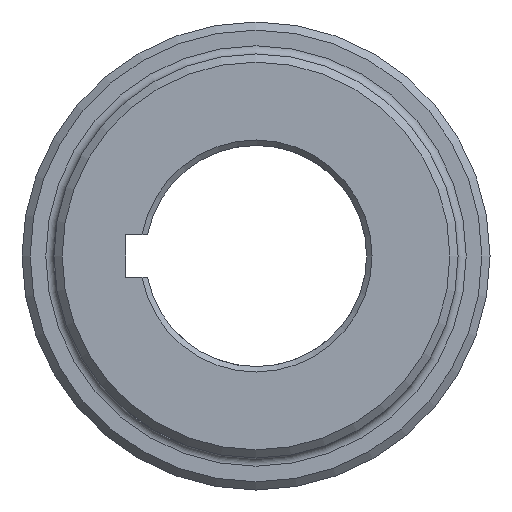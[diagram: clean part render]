
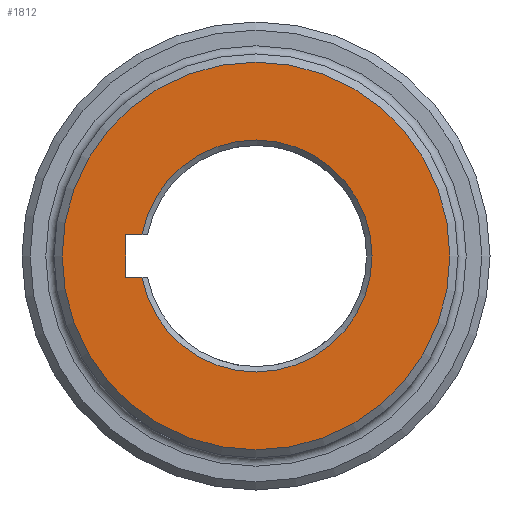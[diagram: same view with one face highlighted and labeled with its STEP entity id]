
A CAD part, left-side view. The second image highlights one B-rep face of the part: STEP entity #1812.
In plain terms, the highlighted planar face has unit normal (-1, 0, 0).
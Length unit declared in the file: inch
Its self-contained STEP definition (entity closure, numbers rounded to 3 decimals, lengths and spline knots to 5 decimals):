
#15 = CIRCLE ( 'NONE', #490, 1.425 ) ;
#22 = EDGE_LOOP ( 'NONE', ( #1197, #1134, #496, #546 ) ) ;
#129 = VERTEX_POINT ( 'NONE', #1809 ) ;
#134 = EDGE_CURVE ( 'NONE', #973, #973, #15, .T. ) ;
#155 = VECTOR ( 'NONE', #505, 39.37008 ) ;
#180 = CARTESIAN_POINT ( 'NONE',  ( 0., 0.95825, 0.156 ) ) ;
#273 = DIRECTION ( 'NONE',  ( 0., 1., 0. ) ) ;
#381 = LINE ( 'NONE', #1719, #1396 ) ;
#423 = LINE ( 'NONE', #1041, #155 ) ;
#459 = CARTESIAN_POINT ( 'NONE',  ( 0., 0., -0.156 ) ) ;
#490 = AXIS2_PLACEMENT_3D ( 'NONE', #1624, #875, #527 ) ;
#496 = ORIENTED_EDGE ( 'NONE', *, *, #1975, .F. ) ;
#505 = DIRECTION ( 'NONE',  ( 0., 0., -1. ) ) ;
#527 = DIRECTION ( 'NONE',  ( 0., 0., -1. ) ) ;
#546 = ORIENTED_EDGE ( 'NONE', *, *, #1967, .F. ) ;
#565 = ORIENTED_EDGE ( 'NONE', *, *, #134, .T. ) ;
#714 = DIRECTION ( 'NONE',  ( 1., 0., 0. ) ) ;
#759 = DIRECTION ( 'NONE',  ( 0., -1., 0. ) ) ;
#874 = CIRCLE ( 'NONE', #1980, 0.85275 ) ;
#875 = DIRECTION ( 'NONE',  ( -1., 0., 0. ) ) ;
#973 = VERTEX_POINT ( 'NONE', #1255 ) ;
#1041 = CARTESIAN_POINT ( 'NONE',  ( 0., 0.95825, -0.156 ) ) ;
#1082 = CARTESIAN_POINT ( 'NONE',  ( 0., 0.83836, 0.156 ) ) ;
#1084 = FACE_OUTER_BOUND ( 'NONE', #2321, .T. ) ;
#1118 = CARTESIAN_POINT ( 'NONE',  ( 0., 0., 0. ) ) ;
#1134 = ORIENTED_EDGE ( 'NONE', *, *, #2108, .T. ) ;
#1197 = ORIENTED_EDGE ( 'NONE', *, *, #2113, .F. ) ;
#1255 = CARTESIAN_POINT ( 'NONE',  ( 0., 0., -1.425 ) ) ;
#1259 = VERTEX_POINT ( 'NONE', #1746 ) ;
#1340 = FACE_BOUND ( 'NONE', #22, .T. ) ;
#1396 = VECTOR ( 'NONE', #273, 39.37008 ) ;
#1549 = DIRECTION ( 'NONE',  ( 0., 0., -1. ) ) ;
#1624 = CARTESIAN_POINT ( 'NONE',  ( 0., 0., 0. ) ) ;
#1719 = CARTESIAN_POINT ( 'NONE',  ( 0., 0., 0.156 ) ) ;
#1723 = VECTOR ( 'NONE', #759, 39.37008 ) ;
#1746 = CARTESIAN_POINT ( 'NONE',  ( 0., 0.95825, -0.156 ) ) ;
#1769 = CARTESIAN_POINT ( 'NONE',  ( 0., 0., 0. ) ) ;
#1809 = CARTESIAN_POINT ( 'NONE',  ( 0., 0.83836, -0.156 ) ) ;
#1812 = ADVANCED_FACE ( 'NONE', ( #1084, #1340 ), #2146, .F. ) ;
#1967 = EDGE_CURVE ( 'NONE', #2281, #1259, #423, .T. ) ;
#1975 = EDGE_CURVE ( 'NONE', #1259, #129, #2153, .T. ) ;
#1980 = AXIS2_PLACEMENT_3D ( 'NONE', #1769, #714, #1549 ) ;
#1987 = AXIS2_PLACEMENT_3D ( 'NONE', #1118, #2336, #2149 ) ;
#2108 = EDGE_CURVE ( 'NONE', #2154, #129, #874, .T. ) ;
#2113 = EDGE_CURVE ( 'NONE', #2154, #2281, #381, .T. ) ;
#2146 = PLANE ( 'NONE',  #1987 ) ;
#2149 = DIRECTION ( 'NONE',  ( 0., 0., -1. ) ) ;
#2153 = LINE ( 'NONE', #459, #1723 ) ;
#2154 = VERTEX_POINT ( 'NONE', #1082 ) ;
#2281 = VERTEX_POINT ( 'NONE', #180 ) ;
#2321 = EDGE_LOOP ( 'NONE', ( #565 ) ) ;
#2336 = DIRECTION ( 'NONE',  ( 1., 0., 0. ) ) ;
